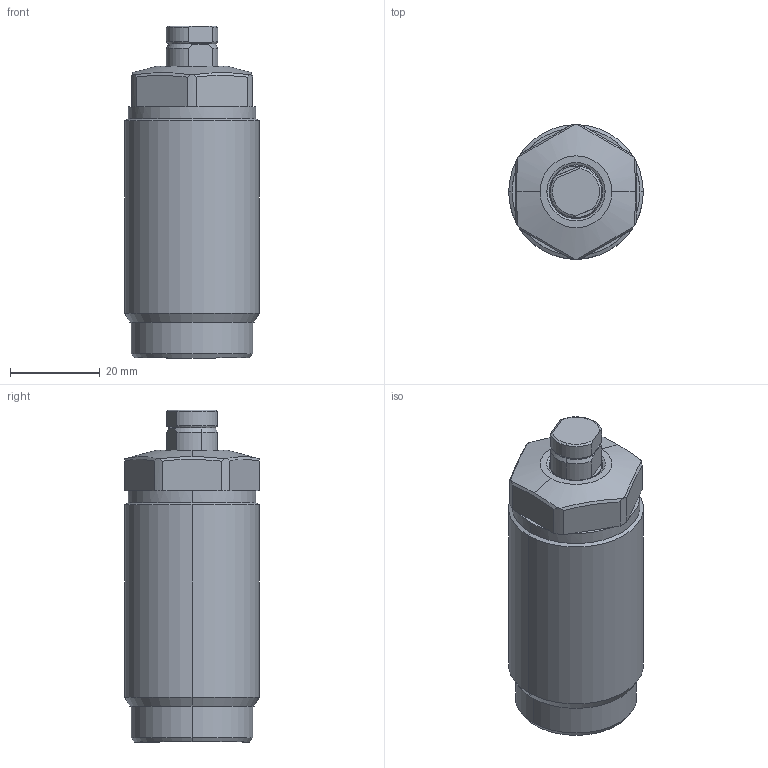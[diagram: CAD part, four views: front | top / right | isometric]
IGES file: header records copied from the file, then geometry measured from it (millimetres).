
Start section: SolidWorks IGES file using analytic representation for surfaces
Global section: file name: F:\CLASP THREADED WORK SUPPORT AND FLANGE IGS MODEL\CLASP THREADED WS IGS\TW09-M260\TW09-M301.IGS; native system: SolidWorks 2019; preprocessor: SolidWorks 2019; author: ADMIN; date: 200806.093540; units: millimetre
Bounding box: 30 x 30 x 74 mm (x, y, z)
Volume: 42831.7 mm3; surface area: 11162.2 mm2
Topology: 3 solids, 3 shells, 108 faces, 249 edges, 151 vertices
Faces by surface type: revolution 62, plane 40, bspline 6
